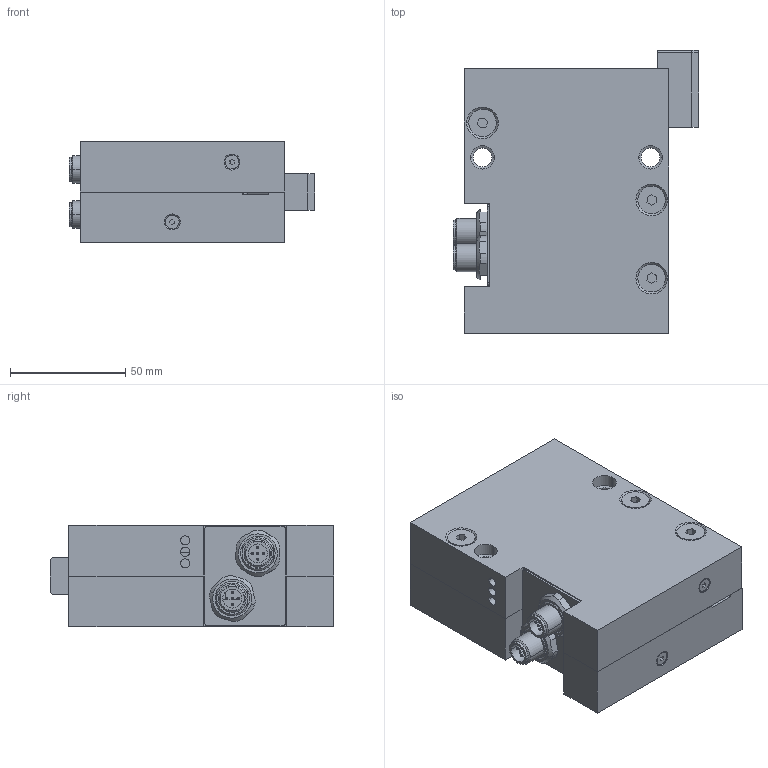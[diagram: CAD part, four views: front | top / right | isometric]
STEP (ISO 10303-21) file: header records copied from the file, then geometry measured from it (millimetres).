
FILE_DESCRIPTION (( 'STEP AP203' ), '1' );
FILE_NAME ('ELD-70-08-5A_Grundstellung.STEP', '2020-04-29T07:28:43', ( '' ), ( '' ), 'SwSTEP 2.0', 'SolidWorks 2017', '' );
FILE_SCHEMA (( 'CONFIG_CONTROL_DESIGN' ));
Length unit declared in the file: millimetre
Products named in the file (1): ELD-70-08-5A_Grundstellung
Bounding box: 106.65 x 123 x 44 mm (x, y, z)
Surface area: 66551.3 mm2 (no closed solid volume)
Topology: 0 solids, 33 shells, 325 faces, 1065 edges, 768 vertices
Faces by surface type: plane 154, cylinder 106, cone 41, bspline 22, torus 2
Entity records: 12634 total; most frequent: CARTESIAN_POINT 3305, DIRECTION 1991, ORIENTED_EDGE 1672, EDGE_CURVE 1065, VERTEX_POINT 768, AXIS2_PLACEMENT_3D 690, LINE 611, VECTOR 611
